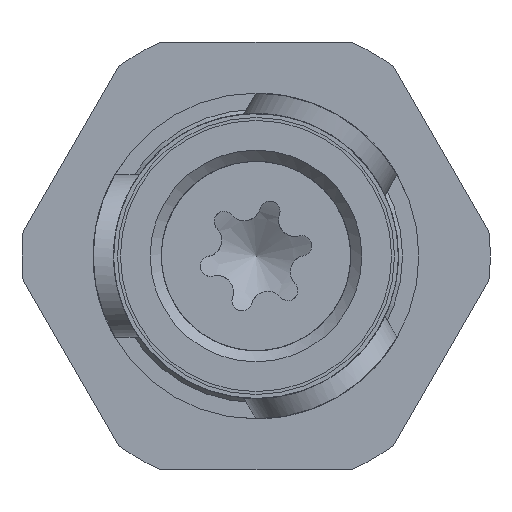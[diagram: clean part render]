
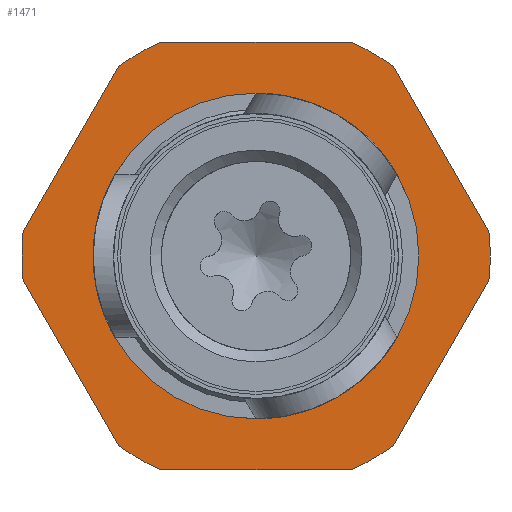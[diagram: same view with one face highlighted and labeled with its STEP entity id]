
A CAD part, front view. The second image highlights one B-rep face of the part: STEP entity #1471.
In plain terms, the highlighted planar face has unit normal (0, -1, 0).
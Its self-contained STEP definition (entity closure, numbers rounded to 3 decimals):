
#62=FACE_BOUND('',#262,.T.);
#80=PLANE('',#1613);
#177=FACE_OUTER_BOUND('',#261,.T.);
#261=EDGE_LOOP('',(#1156,#1157,#1158,#1159,#1160,#1161,#1162,#1163,#1164,
#1165,#1166,#1167));
#262=EDGE_LOOP('',(#1168,#1169));
#352=LINE('',#2770,#440);
#353=LINE('',#2774,#441);
#354=LINE('',#2778,#442);
#355=LINE('',#2782,#443);
#356=LINE('',#2786,#444);
#357=LINE('',#2790,#445);
#440=VECTOR('',#1914,10.);
#441=VECTOR('',#1917,10.);
#442=VECTOR('',#1920,10.);
#443=VECTOR('',#1923,10.);
#444=VECTOR('',#1926,10.);
#445=VECTOR('',#1929,10.);
#518=CIRCLE('',#1611,8.);
#519=CIRCLE('',#1612,8.);
#520=CIRCLE('',#1614,11.5);
#521=CIRCLE('',#1615,11.5);
#522=CIRCLE('',#1616,11.5);
#523=CIRCLE('',#1617,11.5);
#524=CIRCLE('',#1618,11.5);
#525=CIRCLE('',#1619,11.5);
#645=VERTEX_POINT('',#2761);
#646=VERTEX_POINT('',#2762);
#647=VERTEX_POINT('',#2768);
#648=VERTEX_POINT('',#2769);
#649=VERTEX_POINT('',#2771);
#650=VERTEX_POINT('',#2773);
#651=VERTEX_POINT('',#2775);
#652=VERTEX_POINT('',#2777);
#653=VERTEX_POINT('',#2779);
#654=VERTEX_POINT('',#2781);
#655=VERTEX_POINT('',#2783);
#656=VERTEX_POINT('',#2785);
#657=VERTEX_POINT('',#2787);
#658=VERTEX_POINT('',#2789);
#828=EDGE_CURVE('',#645,#646,#518,.T.);
#829=EDGE_CURVE('',#646,#645,#519,.T.);
#832=EDGE_CURVE('',#647,#648,#352,.T.);
#833=EDGE_CURVE('',#649,#648,#520,.T.);
#834=EDGE_CURVE('',#649,#650,#353,.T.);
#835=EDGE_CURVE('',#651,#650,#521,.T.);
#836=EDGE_CURVE('',#651,#652,#354,.T.);
#837=EDGE_CURVE('',#653,#652,#522,.T.);
#838=EDGE_CURVE('',#653,#654,#355,.T.);
#839=EDGE_CURVE('',#655,#654,#523,.T.);
#840=EDGE_CURVE('',#655,#656,#356,.T.);
#841=EDGE_CURVE('',#657,#656,#524,.T.);
#842=EDGE_CURVE('',#657,#658,#357,.T.);
#843=EDGE_CURVE('',#647,#658,#525,.T.);
#1156=ORIENTED_EDGE('',*,*,#832,.T.);
#1157=ORIENTED_EDGE('',*,*,#833,.F.);
#1158=ORIENTED_EDGE('',*,*,#834,.T.);
#1159=ORIENTED_EDGE('',*,*,#835,.F.);
#1160=ORIENTED_EDGE('',*,*,#836,.T.);
#1161=ORIENTED_EDGE('',*,*,#837,.F.);
#1162=ORIENTED_EDGE('',*,*,#838,.T.);
#1163=ORIENTED_EDGE('',*,*,#839,.F.);
#1164=ORIENTED_EDGE('',*,*,#840,.T.);
#1165=ORIENTED_EDGE('',*,*,#841,.F.);
#1166=ORIENTED_EDGE('',*,*,#842,.T.);
#1167=ORIENTED_EDGE('',*,*,#843,.F.);
#1168=ORIENTED_EDGE('',*,*,#828,.T.);
#1169=ORIENTED_EDGE('',*,*,#829,.T.);
#1471=ADVANCED_FACE('',(#177,#62),#80,.T.);
#1611=AXIS2_PLACEMENT_3D('',#2763,#1906,#1907);
#1612=AXIS2_PLACEMENT_3D('',#2764,#1908,#1909);
#1613=AXIS2_PLACEMENT_3D('',#2767,#1912,#1913);
#1614=AXIS2_PLACEMENT_3D('',#2772,#1915,#1916);
#1615=AXIS2_PLACEMENT_3D('',#2776,#1918,#1919);
#1616=AXIS2_PLACEMENT_3D('',#2780,#1921,#1922);
#1617=AXIS2_PLACEMENT_3D('',#2784,#1924,#1925);
#1618=AXIS2_PLACEMENT_3D('',#2788,#1927,#1928);
#1619=AXIS2_PLACEMENT_3D('',#2791,#1930,#1931);
#1906=DIRECTION('center_axis',(0.,1.,0.));
#1907=DIRECTION('ref_axis',(-0.5,0.,0.866));
#1908=DIRECTION('center_axis',(0.,1.,0.));
#1909=DIRECTION('ref_axis',(-0.5,0.,0.866));
#1912=DIRECTION('center_axis',(0.,-1.,0.));
#1913=DIRECTION('ref_axis',(0.,0.,
-1.));
#1914=DIRECTION('',(-0.5,0.,0.866));
#1915=DIRECTION('center_axis',(0.,1.,0.));
#1916=DIRECTION('ref_axis',(-1.,0.,0.));
#1917=DIRECTION('',(-1.,0.,0.));
#1918=DIRECTION('center_axis',(0.,1.,0.));
#1919=DIRECTION('ref_axis',(-1.,0.,0.));
#1920=DIRECTION('',(-0.5,0.,-0.866));
#1921=DIRECTION('center_axis',(0.,1.,0.));
#1922=DIRECTION('ref_axis',(-1.,0.,0.));
#1923=DIRECTION('',(0.5,0.,-0.866));
#1924=DIRECTION('center_axis',(0.,1.,0.));
#1925=DIRECTION('ref_axis',(-1.,0.,0.));
#1926=DIRECTION('',(1.,0.,0.));
#1927=DIRECTION('center_axis',(0.,1.,0.));
#1928=DIRECTION('ref_axis',(-1.,0.,0.));
#1929=DIRECTION('',(0.5,0.,0.866));
#1930=DIRECTION('center_axis',(0.,1.,0.));
#1931=DIRECTION('ref_axis',(-1.,0.,0.));
#2761=CARTESIAN_POINT('',(-4.,30.9,6.928));
#2762=CARTESIAN_POINT('',(4.,30.9,-6.928));
#2763=CARTESIAN_POINT('Origin',(0.,30.9,0.));
#2764=CARTESIAN_POINT('Origin',(0.,30.9,0.));
#2767=CARTESIAN_POINT('Origin',(-9.25,30.9,0.));
#2768=CARTESIAN_POINT('',(11.438,30.9,1.188));
#2769=CARTESIAN_POINT('',(6.748,30.9,9.312));
#2770=CARTESIAN_POINT('',(9.453,30.9,4.628));
#2771=CARTESIAN_POINT('',(4.69,30.9,10.5));
#2772=CARTESIAN_POINT('Origin',(0.,30.9,0.));
#2773=CARTESIAN_POINT('',(-4.69,30.9,10.5));
#2774=CARTESIAN_POINT('',(-1.594,30.9,10.5));
#2775=CARTESIAN_POINT('',(-6.748,30.9,9.312));
#2776=CARTESIAN_POINT('Origin',(0.,30.9,0.));
#2777=CARTESIAN_POINT('',(-11.438,30.9,1.188));
#2778=CARTESIAN_POINT('',(-8.734,30.9,5.872));
#2779=CARTESIAN_POINT('',(-11.438,30.9,-1.188));
#2780=CARTESIAN_POINT('Origin',(0.,30.9,0.));
#2781=CARTESIAN_POINT('',(-6.748,30.9,-9.312));
#2782=CARTESIAN_POINT('',(-11.765,30.9,-0.622));
#2783=CARTESIAN_POINT('',(-4.69,30.9,-10.5));
#2784=CARTESIAN_POINT('Origin',(0.,30.9,0.));
#2785=CARTESIAN_POINT('',(4.69,30.9,-10.5));
#2786=CARTESIAN_POINT('',(-7.656,30.9,-10.5));
#2787=CARTESIAN_POINT('',(6.748,30.9,-9.312));
#2788=CARTESIAN_POINT('Origin',(0.,30.9,0.));
#2789=CARTESIAN_POINT('',(11.438,30.9,-1.188));
#2790=CARTESIAN_POINT('',(6.421,30.9,-9.878));
#2791=CARTESIAN_POINT('Origin',(0.,30.9,0.));
